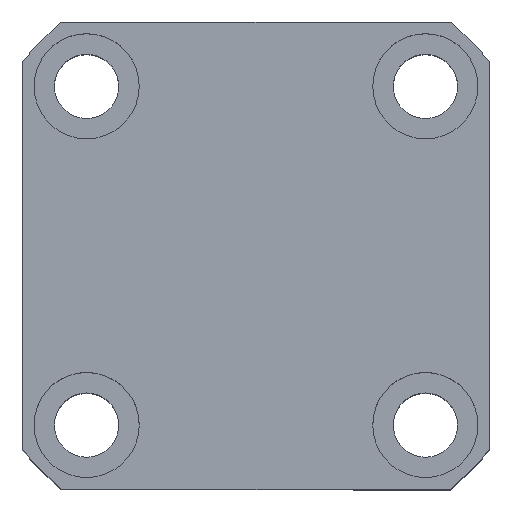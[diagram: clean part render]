
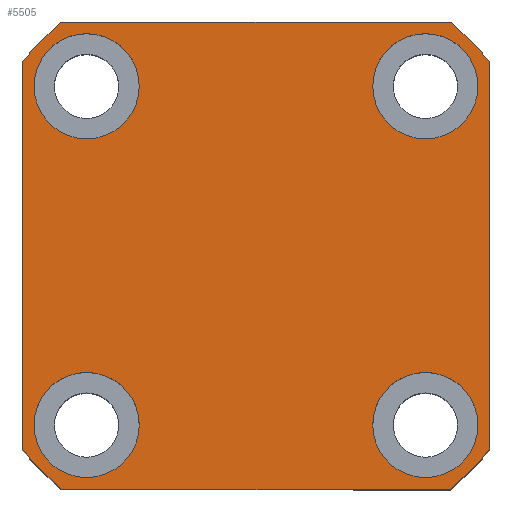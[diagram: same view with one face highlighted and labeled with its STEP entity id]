
A CAD part, top view. The second image highlights one B-rep face of the part: STEP entity #5505.
In plain terms, the highlighted planar face has unit normal (0, 0, 1).
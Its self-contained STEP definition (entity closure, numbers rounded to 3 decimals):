
#87 = AXIS2_PLACEMENT_3D ( 'NONE', #10507, #7222, #5492 ) ;
#135 = DIRECTION ( 'NONE',  ( -1., 0., 0. ) ) ;
#198 = DIRECTION ( 'NONE',  ( 0., 0., 1. ) ) ;
#215 = DIRECTION ( 'NONE',  ( 0., 0., 1. ) ) ;
#308 = VECTOR ( 'NONE', #4035, 1000. ) ;
#456 = CARTESIAN_POINT ( 'NONE',  ( 0., 0., 37.5 ) ) ;
#492 = DIRECTION ( 'NONE',  ( 1., 0., 0. ) ) ;
#523 = EDGE_CURVE ( 'NONE', #9134, #7801, #1213, .T. ) ;
#568 = ORIENTED_EDGE ( 'NONE', *, *, #1550, .T. ) ;
#626 = CIRCLE ( 'NONE', #9391, 9. ) ;
#650 = CARTESIAN_POINT ( 'NONE',  ( -20., -29., 37.5 ) ) ;
#828 = CIRCLE ( 'NONE', #9221, 9. ) ;
#1015 = EDGE_LOOP ( 'NONE', ( #5561, #5955 ) ) ;
#1056 = CARTESIAN_POINT ( 'NONE',  ( 33.226, -40., 37.5 ) ) ;
#1176 = VERTEX_POINT ( 'NONE', #650 ) ;
#1204 = CARTESIAN_POINT ( 'NONE',  ( 38., 29., 37.5 ) ) ;
#1211 = EDGE_CURVE ( 'NONE', #10379, #10531, #828, .T. ) ;
#1213 = LINE ( 'NONE', #2251, #308 ) ;
#1550 = EDGE_CURVE ( 'NONE', #6511, #4900, #2054, .T. ) ;
#1662 = CARTESIAN_POINT ( 'NONE',  ( 20., -29., 37.5 ) ) ;
#1890 = DIRECTION ( 'NONE',  ( 1., 0., 0. ) ) ;
#1930 = CARTESIAN_POINT ( 'NONE',  ( 33.226, 40., 37.5 ) ) ;
#2054 = LINE ( 'NONE', #5141, #8585 ) ;
#2078 = DIRECTION ( 'NONE',  ( 0., 0., 1. ) ) ;
#2116 = CIRCLE ( 'NONE', #8053, 9. ) ;
#2141 = FACE_BOUND ( 'NONE', #1015, .T. ) ;
#2180 = DIRECTION ( 'NONE',  ( 0., 0., 1. ) ) ;
#2233 = ORIENTED_EDGE ( 'NONE', *, *, #3904, .T. ) ;
#2251 = CARTESIAN_POINT ( 'NONE',  ( -40., 33.226, 37.5 ) ) ;
#2254 = PLANE ( 'NONE',  #9821 ) ;
#2275 = AXIS2_PLACEMENT_3D ( 'NONE', #456, #5472, #9683 ) ;
#2494 = DIRECTION ( 'NONE',  ( 1., 0., 0. ) ) ;
#2715 = VERTEX_POINT ( 'NONE', #10582 ) ;
#2773 = DIRECTION ( 'NONE',  ( 0., 0., 1. ) ) ;
#2784 = DIRECTION ( 'NONE',  ( 1., 0., 0. ) ) ;
#2790 = FACE_OUTER_BOUND ( 'NONE', #5836, .T. ) ;
#2862 = CARTESIAN_POINT ( 'NONE',  ( 40., 33.226, 37.5 ) ) ;
#2960 = CARTESIAN_POINT ( 'NONE',  ( 29., 29., 37.5 ) ) ;
#3037 = DIRECTION ( 'NONE',  ( 0., 0., 1. ) ) ;
#3045 = DIRECTION ( 'NONE',  ( 1., 0., 0. ) ) ;
#3059 = CARTESIAN_POINT ( 'NONE',  ( 0., 0., 37.5 ) ) ;
#3075 = CARTESIAN_POINT ( 'NONE',  ( 29., -29., 37.5 ) ) ;
#3098 = DIRECTION ( 'NONE',  ( 1., 0., 0. ) ) ;
#3263 = ORIENTED_EDGE ( 'NONE', *, *, #8772, .T. ) ;
#3345 = ORIENTED_EDGE ( 'NONE', *, *, #6579, .F. ) ;
#3442 = AXIS2_PLACEMENT_3D ( 'NONE', #8089, #6368, #6293 ) ;
#3462 = VERTEX_POINT ( 'NONE', #7406 ) ;
#3484 = AXIS2_PLACEMENT_3D ( 'NONE', #10498, #8843, #3045 ) ;
#3498 = VERTEX_POINT ( 'NONE', #4209 ) ;
#3508 = EDGE_LOOP ( 'NONE', ( #4129, #5216 ) ) ;
#3518 = CIRCLE ( 'NONE', #2275, 52. ) ;
#3704 = CIRCLE ( 'NONE', #10038, 9. ) ;
#3904 = EDGE_CURVE ( 'NONE', #7801, #3989, #5016, .T. ) ;
#3989 = VERTEX_POINT ( 'NONE', #9184 ) ;
#4035 = DIRECTION ( 'NONE',  ( 0., -1., 0. ) ) ;
#4094 = FACE_BOUND ( 'NONE', #4254, .T. ) ;
#4129 = ORIENTED_EDGE ( 'NONE', *, *, #5768, .F. ) ;
#4209 = CARTESIAN_POINT ( 'NONE',  ( -38., 29., 37.5 ) ) ;
#4240 = CARTESIAN_POINT ( 'NONE',  ( 40., 33.226, 37.5 ) ) ;
#4254 = EDGE_LOOP ( 'NONE', ( #8186, #8066 ) ) ;
#4352 = FACE_BOUND ( 'NONE', #3508, .T. ) ;
#4365 = CARTESIAN_POINT ( 'NONE',  ( -29., 29., 37.5 ) ) ;
#4427 = CIRCLE ( 'NONE', #8069, 52. ) ;
#4428 = CARTESIAN_POINT ( 'NONE',  ( 38., -29., 37.5 ) ) ;
#4436 = CARTESIAN_POINT ( 'NONE',  ( -29., 29., 37.5 ) ) ;
#4517 = CARTESIAN_POINT ( 'NONE',  ( -33.226, 40., 37.5 ) ) ;
#4692 = AXIS2_PLACEMENT_3D ( 'NONE', #4365, #198, #8609 ) ;
#4898 = EDGE_CURVE ( 'NONE', #7550, #3462, #3704, .T. ) ;
#4900 = VERTEX_POINT ( 'NONE', #4517 ) ;
#4926 = VERTEX_POINT ( 'NONE', #5438 ) ;
#5016 = CIRCLE ( 'NONE', #3484, 52. ) ;
#5141 = CARTESIAN_POINT ( 'NONE',  ( -33.226, 40., 37.5 ) ) ;
#5216 = ORIENTED_EDGE ( 'NONE', *, *, #1211, .F. ) ;
#5259 = CARTESIAN_POINT ( 'NONE',  ( -38., -29., 37.5 ) ) ;
#5328 = ORIENTED_EDGE ( 'NONE', *, *, #8925, .T. ) ;
#5390 = CARTESIAN_POINT ( 'NONE',  ( 0., 0., 37.5 ) ) ;
#5438 = CARTESIAN_POINT ( 'NONE',  ( -20., 29., 37.5 ) ) ;
#5456 = CARTESIAN_POINT ( 'NONE',  ( -40., -33.226, 37.5 ) ) ;
#5472 = DIRECTION ( 'NONE',  ( 0., 0., 1. ) ) ;
#5492 = DIRECTION ( 'NONE',  ( 1., 0., 0. ) ) ;
#5505 = ADVANCED_FACE ( 'NONE', ( #4352, #2141, #7747, #4094, #2790 ), #2254, .T. ) ;
#5561 = ORIENTED_EDGE ( 'NONE', *, *, #9709, .F. ) ;
#5632 = VECTOR ( 'NONE', #7433, 1000. ) ;
#5718 = ORIENTED_EDGE ( 'NONE', *, *, #8857, .T. ) ;
#5768 = EDGE_CURVE ( 'NONE', #10531, #10379, #8527, .T. ) ;
#5836 = EDGE_LOOP ( 'NONE', ( #5328, #8833, #2233, #5879, #6234, #5718, #3263, #568 ) ) ;
#5879 = ORIENTED_EDGE ( 'NONE', *, *, #6320, .T. ) ;
#5881 = LINE ( 'NONE', #2862, #9547 ) ;
#5917 = EDGE_CURVE ( 'NONE', #3462, #7550, #6292, .T. ) ;
#5955 = ORIENTED_EDGE ( 'NONE', *, *, #7706, .F. ) ;
#6035 = AXIS2_PLACEMENT_3D ( 'NONE', #9544, #215, #2784 ) ;
#6234 = ORIENTED_EDGE ( 'NONE', *, *, #9432, .T. ) ;
#6292 = CIRCLE ( 'NONE', #7069, 9. ) ;
#6293 = DIRECTION ( 'NONE',  ( 1., 0., 0. ) ) ;
#6320 = EDGE_CURVE ( 'NONE', #3989, #10584, #8112, .T. ) ;
#6330 = ORIENTED_EDGE ( 'NONE', *, *, #6463, .F. ) ;
#6347 = DIRECTION ( 'NONE',  ( 1., 0., 0. ) ) ;
#6366 = EDGE_LOOP ( 'NONE', ( #3345, #6330 ) ) ;
#6368 = DIRECTION ( 'NONE',  ( 0., 0., 1. ) ) ;
#6463 = EDGE_CURVE ( 'NONE', #3498, #4926, #6682, .T. ) ;
#6511 = VERTEX_POINT ( 'NONE', #1930 ) ;
#6557 = CARTESIAN_POINT ( 'NONE',  ( -40., 33.226, 37.5 ) ) ;
#6579 = EDGE_CURVE ( 'NONE', #4926, #3498, #2116, .T. ) ;
#6682 = CIRCLE ( 'NONE', #4692, 9. ) ;
#7069 = AXIS2_PLACEMENT_3D ( 'NONE', #10769, #7353, #10736 ) ;
#7222 = DIRECTION ( 'NONE',  ( 0., 0., 1. ) ) ;
#7353 = DIRECTION ( 'NONE',  ( 0., 0., 1. ) ) ;
#7406 = CARTESIAN_POINT ( 'NONE',  ( 20., 29., 37.5 ) ) ;
#7433 = DIRECTION ( 'NONE',  ( 1., 0., 0. ) ) ;
#7550 = VERTEX_POINT ( 'NONE', #1204 ) ;
#7589 = DIRECTION ( 'NONE',  ( 0., 0., 1. ) ) ;
#7706 = EDGE_CURVE ( 'NONE', #8862, #1176, #10605, .T. ) ;
#7747 = FACE_BOUND ( 'NONE', #6366, .T. ) ;
#7801 = VERTEX_POINT ( 'NONE', #5456 ) ;
#7995 = DIRECTION ( 'NONE',  ( 0., 0., 1. ) ) ;
#8053 = AXIS2_PLACEMENT_3D ( 'NONE', #4436, #2773, #1890 ) ;
#8066 = ORIENTED_EDGE ( 'NONE', *, *, #5917, .F. ) ;
#8069 = AXIS2_PLACEMENT_3D ( 'NONE', #5390, #2078, #8614 ) ;
#8089 = CARTESIAN_POINT ( 'NONE',  ( 29., -29., 37.5 ) ) ;
#8112 = LINE ( 'NONE', #8236, #5632 ) ;
#8186 = ORIENTED_EDGE ( 'NONE', *, *, #4898, .F. ) ;
#8216 = CIRCLE ( 'NONE', #6035, 52. ) ;
#8236 = CARTESIAN_POINT ( 'NONE',  ( -33.226, -40., 37.5 ) ) ;
#8527 = CIRCLE ( 'NONE', #3442, 9. ) ;
#8585 = VECTOR ( 'NONE', #135, 1000. ) ;
#8609 = DIRECTION ( 'NONE',  ( 1., 0., 0. ) ) ;
#8614 = DIRECTION ( 'NONE',  ( 1., 0., 0. ) ) ;
#8700 = VERTEX_POINT ( 'NONE', #4240 ) ;
#8726 = DIRECTION ( 'NONE',  ( 0., 1., 0. ) ) ;
#8772 = EDGE_CURVE ( 'NONE', #8700, #6511, #8216, .T. ) ;
#8833 = ORIENTED_EDGE ( 'NONE', *, *, #523, .T. ) ;
#8843 = DIRECTION ( 'NONE',  ( 0., 0., 1. ) ) ;
#8857 = EDGE_CURVE ( 'NONE', #2715, #8700, #5881, .T. ) ;
#8862 = VERTEX_POINT ( 'NONE', #5259 ) ;
#8925 = EDGE_CURVE ( 'NONE', #4900, #9134, #3518, .T. ) ;
#9134 = VERTEX_POINT ( 'NONE', #6557 ) ;
#9184 = CARTESIAN_POINT ( 'NONE',  ( -33.226, -40., 37.5 ) ) ;
#9221 = AXIS2_PLACEMENT_3D ( 'NONE', #3075, #7995, #6347 ) ;
#9283 = CARTESIAN_POINT ( 'NONE',  ( -29., -29., 37.5 ) ) ;
#9391 = AXIS2_PLACEMENT_3D ( 'NONE', #9283, #7589, #2494 ) ;
#9432 = EDGE_CURVE ( 'NONE', #10584, #2715, #4427, .T. ) ;
#9544 = CARTESIAN_POINT ( 'NONE',  ( 0., 0., 37.5 ) ) ;
#9547 = VECTOR ( 'NONE', #8726, 1000. ) ;
#9683 = DIRECTION ( 'NONE',  ( 1., 0., 0. ) ) ;
#9709 = EDGE_CURVE ( 'NONE', #1176, #8862, #626, .T. ) ;
#9821 = AXIS2_PLACEMENT_3D ( 'NONE', #3059, #2180, #3098 ) ;
#10038 = AXIS2_PLACEMENT_3D ( 'NONE', #2960, #3037, #492 ) ;
#10379 = VERTEX_POINT ( 'NONE', #1662 ) ;
#10498 = CARTESIAN_POINT ( 'NONE',  ( 0., 0., 37.5 ) ) ;
#10507 = CARTESIAN_POINT ( 'NONE',  ( -29., -29., 37.5 ) ) ;
#10531 = VERTEX_POINT ( 'NONE', #4428 ) ;
#10582 = CARTESIAN_POINT ( 'NONE',  ( 40., -33.226, 37.5 ) ) ;
#10584 = VERTEX_POINT ( 'NONE', #1056 ) ;
#10605 = CIRCLE ( 'NONE', #87, 9. ) ;
#10736 = DIRECTION ( 'NONE',  ( 1., 0., 0. ) ) ;
#10769 = CARTESIAN_POINT ( 'NONE',  ( 29., 29., 37.5 ) ) ;
